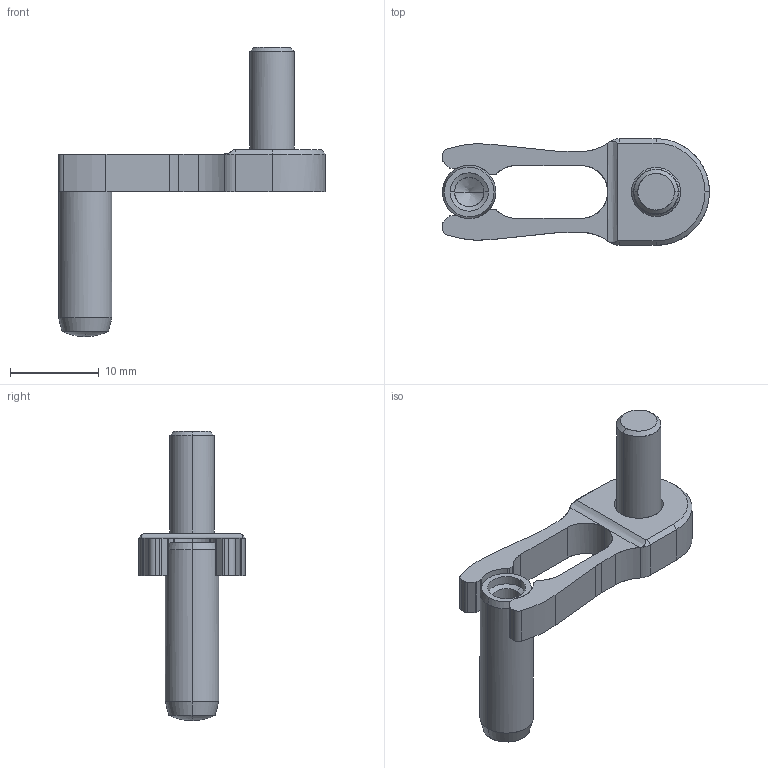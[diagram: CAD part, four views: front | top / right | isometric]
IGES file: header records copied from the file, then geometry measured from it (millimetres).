
Start section: START RECORD GO HERE.
Global section: file name: rc123006.igs; native system: DASSAULT SYSTEMES CATIA V5 R20 - www.3ds.com; preprocessor: CATIA Version 5 Release 20 ; author: Utente; organization: NB04-ASUS; date: 20201103.214438; units: millimetre
Bounding box: 30 x 12 x 32.5 mm (x, y, z)
Surface area: 1836.3 mm2 (no closed solid volume)
Topology: 0 solids, 0 shells, 108 faces, 522 edges, 516 vertices
Faces by surface type: revolution 71, plane 37
